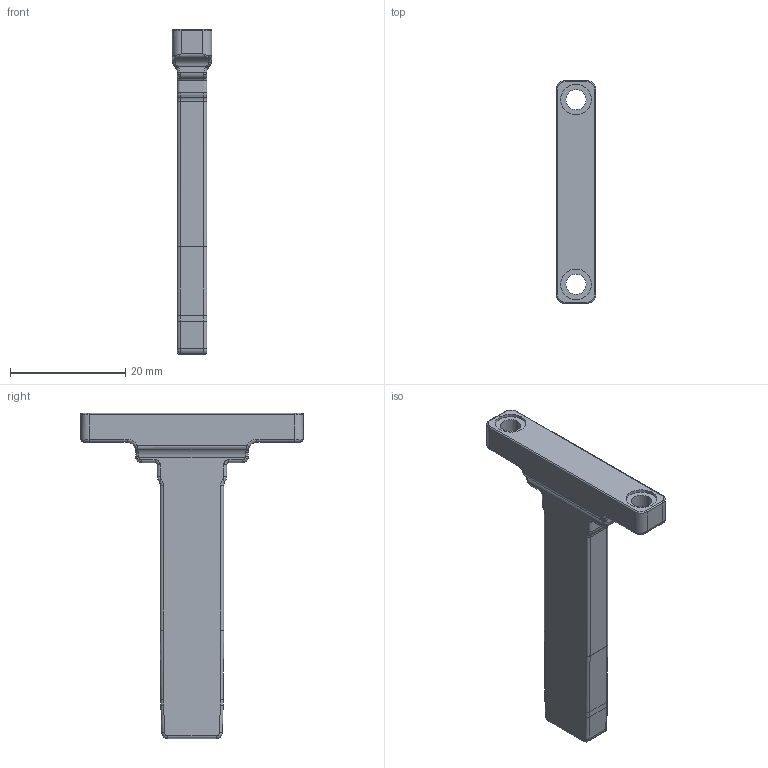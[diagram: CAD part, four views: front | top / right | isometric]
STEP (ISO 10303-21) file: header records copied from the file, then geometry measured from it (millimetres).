
FILE_DESCRIPTION (( 'STEP AP203' ), '1' );
FILE_NAME ('TB01011.STEP', '2019-07-08T06:08:23', ( 'ww' ), ( 'Microsoft' ), 'SwSTEP 2.0', 'SolidWorks 2012', '' );
FILE_SCHEMA (( 'CONFIG_CONTROL_DESIGN' ));
Length unit declared in the file: millimetre
Products named in the file (1): TB01011
Bounding box: 6.8 x 38.6 x 56.3 mm (x, y, z)
Volume: 4256.9 mm3; surface area: 2635.4 mm2
Topology: 1 solids, 1 shells, 174 faces, 414 edges, 236 vertices
Faces by surface type: cylinder 66, bspline 40, plane 36, torus 32
Entity records: 6137 total; most frequent: CARTESIAN_POINT 2379, ORIENTED_EDGE 812, DIRECTION 732, EDGE_CURVE 406, AXIS2_PLACEMENT_3D 295, VERTEX_POINT 236, EDGE_LOOP 180, ADVANCED_FACE 174
